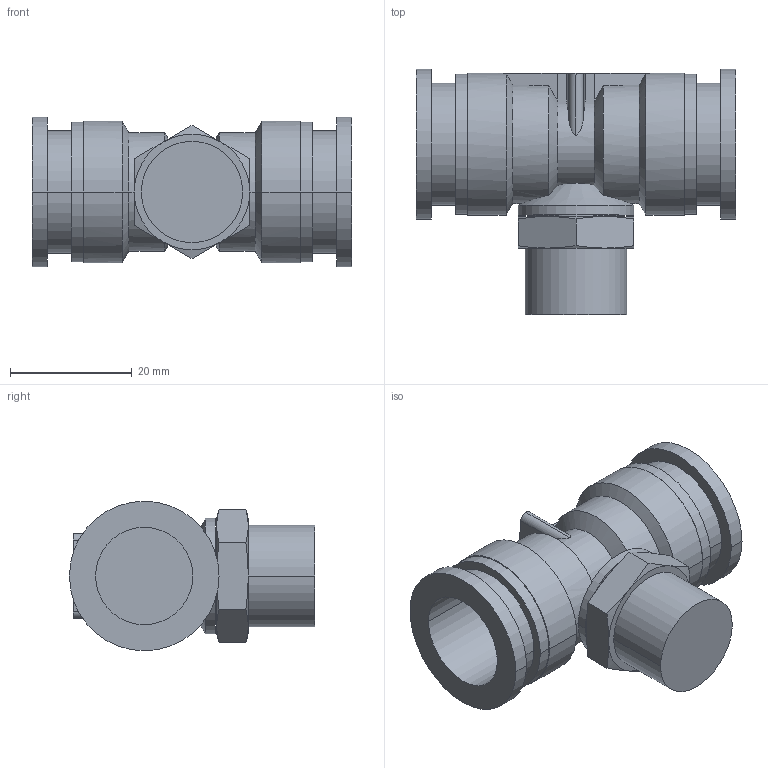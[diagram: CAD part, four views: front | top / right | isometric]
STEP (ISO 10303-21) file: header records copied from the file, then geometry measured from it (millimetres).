
FILE_DESCRIPTION( ( '' ), '1' );
FILE_NAME( 'G:/SMC狟婥/KQ2T16-03AS.stp', '2023-03-07T03:14:23', ( '' ), ( '' ), ' ', ' ', ' ' );
FILE_SCHEMA( ( 'CONFIG_CONTROL_DESIGN' ) );
Length unit declared in the file: millimetre
Products named in the file (1): 1
Bounding box: 52.6 x 40.3 x 24.6 mm (x, y, z)
Volume: 14778.2 mm3; surface area: 9177.5 mm2
Topology: 1 solids, 1 shells, 95 faces, 222 edges, 140 vertices
Faces by surface type: cylinder 40, plane 33, cone 22
Entity records: 3061 total; most frequent: CARTESIAN_POINT 899, DIRECTION 456, ORIENTED_EDGE 444, EDGE_CURVE 222, AXIS2_PLACEMENT_3D 192, VERTEX_POINT 140, EDGE_LOOP 106, ADVANCED_FACE 95
